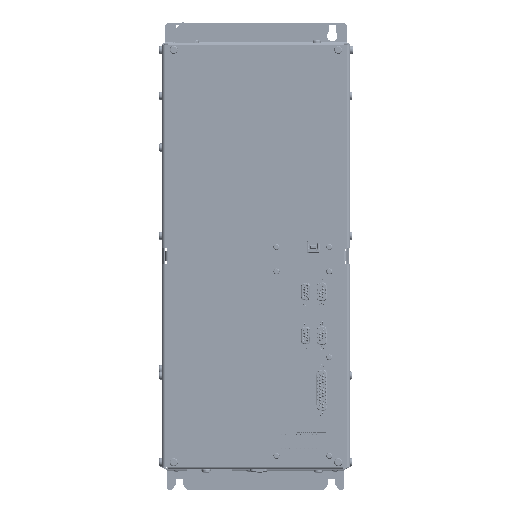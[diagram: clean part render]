
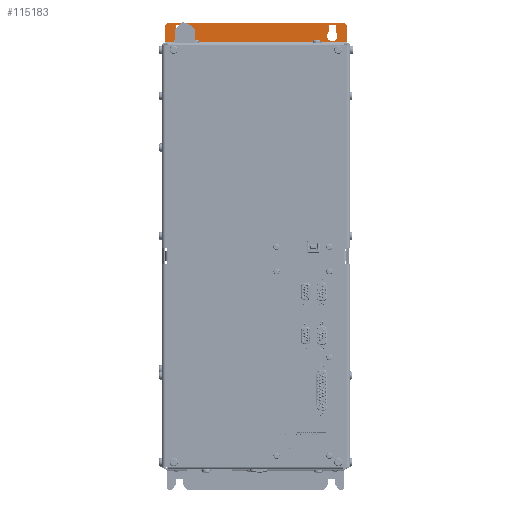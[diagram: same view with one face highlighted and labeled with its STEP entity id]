
A CAD part, top view. The second image highlights one B-rep face of the part: STEP entity #115183.
In plain terms, the highlighted planar face has unit normal (0, 0, 1) as drawn and (0, -1, 0) by its records, which use the part's own axes.
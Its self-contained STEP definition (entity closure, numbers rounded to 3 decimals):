
#4283 = DIRECTION ( 'NONE',  ( -1., 0., 0. ) ) ;
#6067 = CARTESIAN_POINT ( 'NONE',  ( 12.5, 215.5, 17.5 ) ) ;
#6475 = LINE ( 'NONE', #144092, #258159 ) ;
#7137 = CARTESIAN_POINT ( 'NONE',  ( 19.5, 215.5, 10.778 ) ) ;
#9211 = VERTEX_POINT ( 'NONE', #153741 ) ;
#13327 = EDGE_CURVE ( 'NONE', #171868, #342352, #145297, .T. ) ;
#13472 = EDGE_LOOP ( 'NONE', ( #292019, #200115, #92615, #253452 ) ) ;
#13893 = CARTESIAN_POINT ( 'NONE',  ( 98.75, 215.5, 98.75 ) ) ;
#15506 = VERTEX_POINT ( 'NONE', #124603 ) ;
#15637 = VERTEX_POINT ( 'NONE', #262249 ) ;
#18156 = EDGE_CURVE ( 'NONE', #341281, #61145, #24560, .T. ) ;
#23327 = DIRECTION ( 'NONE',  ( 0., 0., -1. ) ) ;
#24430 = CARTESIAN_POINT ( 'NONE',  ( 19.5, 215.5, 17.5 ) ) ;
#24560 = LINE ( 'NONE', #245451, #244390 ) ;
#30017 = LINE ( 'NONE', #194814, #40596 ) ;
#36775 = LINE ( 'NONE', #6067, #149258 ) ;
#40596 = VECTOR ( 'NONE', #278117, 1000. ) ;
#45463 = VERTEX_POINT ( 'NONE', #90788 ) ;
#46774 = ORIENTED_EDGE ( 'NONE', *, *, #301264, .T. ) ;
#50911 = EDGE_CURVE ( 'NONE', #282681, #45463, #189861, .T. ) ;
#54333 = CARTESIAN_POINT ( 'NONE',  ( 4.5, 215.5, 20. ) ) ;
#61145 = VERTEX_POINT ( 'NONE', #24430 ) ;
#65283 = CIRCLE ( 'NONE', #238720, 5.15 ) ;
#65473 = DIRECTION ( 'NONE',  ( 0., -1., 0. ) ) ;
#65531 = ORIENTED_EDGE ( 'NONE', *, *, #18156, .F. ) ;
#67766 = DIRECTION ( 'NONE',  ( 0., 0., -1. ) ) ;
#68270 = DIRECTION ( 'NONE',  ( -0.707, 0., 0.707 ) ) ;
#70559 = FACE_OUTER_BOUND ( 'NONE', #112171, .T. ) ;
#78693 = VECTOR ( 'NONE', #304803, 1000. ) ;
#81196 = CARTESIAN_POINT ( 'NONE',  ( 12.5, 215.5, 10.778 ) ) ;
#83863 = CARTESIAN_POINT ( 'NONE',  ( 180.5, 215.5, 0. ) ) ;
#90788 = CARTESIAN_POINT ( 'NONE',  ( 1.5, 215.5, 17. ) ) ;
#92615 = ORIENTED_EDGE ( 'NONE', *, *, #95354, .F. ) ;
#92653 = VERTEX_POINT ( 'NONE', #231484 ) ;
#95354 = EDGE_CURVE ( 'NONE', #9211, #183016, #65283, .T. ) ;
#96408 = DIRECTION ( 'NONE',  ( 1., 0., 0. ) ) ;
#103026 = DIRECTION ( 'NONE',  ( 0., -1., 0. ) ) ;
#105733 = DIRECTION ( 'NONE',  ( 0., 0., -1. ) ) ;
#110977 = CARTESIAN_POINT ( 'NONE',  ( 162.5, 215.5, 17.5 ) ) ;
#112120 = EDGE_CURVE ( 'NONE', #61145, #15637, #36775, .T. ) ;
#112129 = EDGE_CURVE ( 'NONE', #92653, #282681, #283098, .T. ) ;
#112171 = EDGE_LOOP ( 'NONE', ( #186242, #46774, #250530, #196161, #317741, #276322 ) ) ;
#115183 = ADVANCED_FACE ( 'NONE', ( #347559, #351170, #70559 ), #130200, .T. ) ;
#120083 = DIRECTION ( 'NONE',  ( -1., 0., 0. ) ) ;
#121139 = CARTESIAN_POINT ( 'NONE',  ( 177.5, 215.5, 20. ) ) ;
#124603 = CARTESIAN_POINT ( 'NONE',  ( 180.5, 215.5, 17. ) ) ;
#125981 = VECTOR ( 'NONE', #120083, 1000. ) ;
#130200 = PLANE ( 'NONE',  #340565 ) ;
#135934 = VECTOR ( 'NONE', #105733, 1000. ) ;
#137220 = VECTOR ( 'NONE', #68270, 1000. ) ;
#144092 = CARTESIAN_POINT ( 'NONE',  ( 180.5, 215.5, 20. ) ) ;
#145297 = LINE ( 'NONE', #110977, #78693 ) ;
#147821 = CARTESIAN_POINT ( 'NONE',  ( 169.5, 215.5, 17.5 ) ) ;
#148738 = CARTESIAN_POINT ( 'NONE',  ( 16., 215.5, 7. ) ) ;
#149258 = VECTOR ( 'NONE', #4283, 1000. ) ;
#153741 = CARTESIAN_POINT ( 'NONE',  ( 162.5, 215.5, 10.778 ) ) ;
#158125 = CARTESIAN_POINT ( 'NONE',  ( 166., 215.5, 7. ) ) ;
#171868 = VERTEX_POINT ( 'NONE', #198660 ) ;
#176428 = EDGE_CURVE ( 'NONE', #332376, #233754, #6475, .T. ) ;
#177935 = CARTESIAN_POINT ( 'NONE',  ( 169.5, 215.5, 10.778 ) ) ;
#183016 = VERTEX_POINT ( 'NONE', #177935 ) ;
#185478 = ORIENTED_EDGE ( 'NONE', *, *, #315913, .F. ) ;
#186152 = EDGE_CURVE ( 'NONE', #183016, #171868, #205735, .T. ) ;
#186242 = ORIENTED_EDGE ( 'NONE', *, *, #176428, .F. ) ;
#188625 = DIRECTION ( 'NONE',  ( 0., 0., -1. ) ) ;
#189861 = LINE ( 'NONE', #300353, #229354 ) ;
#194814 = CARTESIAN_POINT ( 'NONE',  ( -7.75, 215.5, 7.75 ) ) ;
#196161 = ORIENTED_EDGE ( 'NONE', *, *, #112129, .F. ) ;
#198660 = CARTESIAN_POINT ( 'NONE',  ( 169.5, 215.5, 17.5 ) ) ;
#200115 = ORIENTED_EDGE ( 'NONE', *, *, #186152, .F. ) ;
#202803 = EDGE_CURVE ( 'NONE', #342352, #9211, #221116, .T. ) ;
#205735 = LINE ( 'NONE', #147821, #272731 ) ;
#214227 = DIRECTION ( 'NONE',  ( 0., -1., 0. ) ) ;
#215765 = CARTESIAN_POINT ( 'NONE',  ( 162.5, 215.5, 10.778 ) ) ;
#219654 = LINE ( 'NONE', #83863, #313366 ) ;
#221116 = LINE ( 'NONE', #215765, #245471 ) ;
#223360 = LINE ( 'NONE', #301329, #135934 ) ;
#224863 = DIRECTION ( 'NONE',  ( 0., 0., -1. ) ) ;
#229354 = VECTOR ( 'NONE', #325811, 1000. ) ;
#231484 = CARTESIAN_POINT ( 'NONE',  ( 180.5, 215.5, 1.5 ) ) ;
#231824 = VERTEX_POINT ( 'NONE', #81196 ) ;
#233754 = VERTEX_POINT ( 'NONE', #121139 ) ;
#234686 = DIRECTION ( 'NONE',  ( 0., 0., 1. ) ) ;
#238720 = AXIS2_PLACEMENT_3D ( 'NONE', #158125, #214227, #67766 ) ;
#242337 = EDGE_CURVE ( 'NONE', #15506, #92653, #219654, .T. ) ;
#244390 = VECTOR ( 'NONE', #355972, 1000. ) ;
#245451 = CARTESIAN_POINT ( 'NONE',  ( 19.5, 215.5, 17.5 ) ) ;
#245471 = VECTOR ( 'NONE', #188625, 1000. ) ;
#250427 = DIRECTION ( 'NONE',  ( 0., 0., -1. ) ) ;
#250530 = ORIENTED_EDGE ( 'NONE', *, *, #50911, .F. ) ;
#251027 = ORIENTED_EDGE ( 'NONE', *, *, #291704, .F. ) ;
#252135 = CARTESIAN_POINT ( 'NONE',  ( 162.5, 215.5, 17.5 ) ) ;
#253452 = ORIENTED_EDGE ( 'NONE', *, *, #202803, .F. ) ;
#258159 = VECTOR ( 'NONE', #96408, 1000. ) ;
#262249 = CARTESIAN_POINT ( 'NONE',  ( 12.5, 215.5, 17.5 ) ) ;
#272731 = VECTOR ( 'NONE', #234686, 1000. ) ;
#273422 = AXIS2_PLACEMENT_3D ( 'NONE', #148738, #65473, #224863 ) ;
#276322 = ORIENTED_EDGE ( 'NONE', *, *, #296236, .T. ) ;
#278117 = DIRECTION ( 'NONE',  ( -0.707, 0., -0.707 ) ) ;
#282681 = VERTEX_POINT ( 'NONE', #356089 ) ;
#283098 = LINE ( 'NONE', #312096, #125981 ) ;
#291704 = EDGE_CURVE ( 'NONE', #15637, #231824, #223360, .T. ) ;
#292019 = ORIENTED_EDGE ( 'NONE', *, *, #13327, .F. ) ;
#296236 = EDGE_CURVE ( 'NONE', #15506, #233754, #316405, .T. ) ;
#298444 = ORIENTED_EDGE ( 'NONE', *, *, #112120, .F. ) ;
#298635 = CARTESIAN_POINT ( 'NONE',  ( 0., 215.5, 0. ) ) ;
#300353 = CARTESIAN_POINT ( 'NONE',  ( 1.5, 215.5, 20. ) ) ;
#301264 = EDGE_CURVE ( 'NONE', #332376, #45463, #30017, .T. ) ;
#301329 = CARTESIAN_POINT ( 'NONE',  ( 12.5, 215.5, 10.778 ) ) ;
#304803 = DIRECTION ( 'NONE',  ( -1., 0., 0. ) ) ;
#312096 = CARTESIAN_POINT ( 'NONE',  ( 180.5, 215.5, 1.5 ) ) ;
#313366 = VECTOR ( 'NONE', #250427, 1000. ) ;
#315913 = EDGE_CURVE ( 'NONE', #231824, #341281, #348631, .T. ) ;
#316405 = LINE ( 'NONE', #13893, #137220 ) ;
#317741 = ORIENTED_EDGE ( 'NONE', *, *, #242337, .F. ) ;
#318843 = EDGE_LOOP ( 'NONE', ( #65531, #185478, #251027, #298444 ) ) ;
#325811 = DIRECTION ( 'NONE',  ( 0., 0., 1. ) ) ;
#332376 = VERTEX_POINT ( 'NONE', #54333 ) ;
#340565 = AXIS2_PLACEMENT_3D ( 'NONE', #298635, #103026, #23327 ) ;
#341281 = VERTEX_POINT ( 'NONE', #7137 ) ;
#342352 = VERTEX_POINT ( 'NONE', #252135 ) ;
#347559 = FACE_BOUND ( 'NONE', #318843, .T. ) ;
#348631 = CIRCLE ( 'NONE', #273422, 5.15 ) ;
#351170 = FACE_BOUND ( 'NONE', #13472, .T. ) ;
#355972 = DIRECTION ( 'NONE',  ( 0., 0., 1. ) ) ;
#356089 = CARTESIAN_POINT ( 'NONE',  ( 1.5, 215.5, 1.5 ) ) ;
